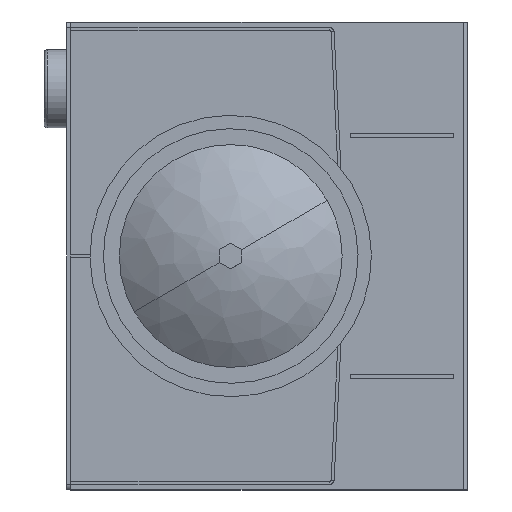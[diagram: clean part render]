
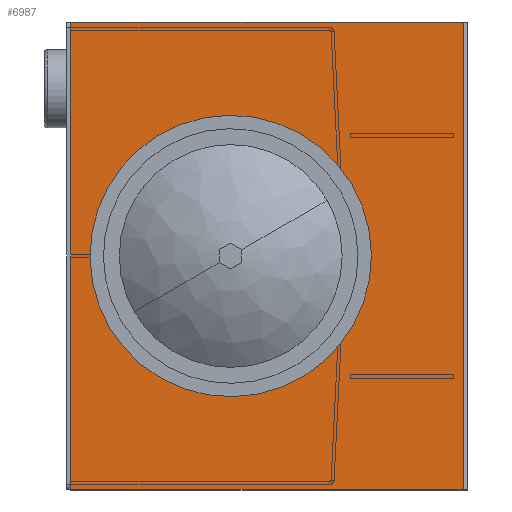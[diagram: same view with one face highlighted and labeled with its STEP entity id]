
A CAD part, left-side view. The second image highlights one B-rep face of the part: STEP entity #6987.
In plain terms, the highlighted planar face has unit normal (-1, 0, 0) as drawn and (1, 0, 0) by its records, which use the part's own axes.
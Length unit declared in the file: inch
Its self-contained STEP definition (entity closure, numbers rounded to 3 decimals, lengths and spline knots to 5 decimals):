
#83 = DIRECTION ( 'NONE',  ( 0., 0., 1. ) ) ;
#114 = CARTESIAN_POINT ( 'NONE',  ( 0., 1.72825, 0. ) ) ;
#289 = DIRECTION ( 'NONE',  ( 1., 0., 0. ) ) ;
#484 = ORIENTED_EDGE ( 'NONE', *, *, #5318, .F. ) ;
#601 = PLANE ( 'NONE',  #3650 ) ;
#690 = EDGE_CURVE ( 'NONE', #8501, #7493, #3948, .T. ) ;
#950 = CARTESIAN_POINT ( 'NONE',  ( 0., 8.90625, 10.5 ) ) ;
#1753 = VECTOR ( 'NONE', #4757, 39.37008 ) ;
#1862 = ORIENTED_EDGE ( 'NONE', *, *, #2209, .T. ) ;
#2138 = ORIENTED_EDGE ( 'NONE', *, *, #5274, .T. ) ;
#2151 = ORIENTED_EDGE ( 'NONE', *, *, #690, .T. ) ;
#2163 = FACE_BOUND ( 'NONE', #2521, .T. ) ;
#2209 = EDGE_CURVE ( 'NONE', #3187, #2708, #6420, .T. ) ;
#2330 = EDGE_LOOP ( 'NONE', ( #3994, #1862, #2138, #2151 ) ) ;
#2521 = EDGE_LOOP ( 'NONE', ( #8576, #484 ) ) ;
#2708 = VERTEX_POINT ( 'NONE', #6695 ) ;
#2924 = LINE ( 'NONE', #8430, #4383 ) ;
#3187 = VERTEX_POINT ( 'NONE', #7063 ) ;
#3274 = CARTESIAN_POINT ( 'NONE',  ( 0., -8.70925, 10.5 ) ) ;
#3411 = CARTESIAN_POINT ( 'NONE',  ( 0., 1.72825, 5. ) ) ;
#3493 = DIRECTION ( 'NONE',  ( 0., 0., -1. ) ) ;
#3578 = AXIS2_PLACEMENT_3D ( 'NONE', #114, #5070, #7284 ) ;
#3650 = AXIS2_PLACEMENT_3D ( 'NONE', #5660, #7115, #7730 ) ;
#3695 = VERTEX_POINT ( 'NONE', #9148 ) ;
#3806 = CARTESIAN_POINT ( 'NONE',  ( 0., -8.90625, 10.5 ) ) ;
#3948 = LINE ( 'NONE', #3806, #8231 ) ;
#3972 = DIRECTION ( 'NONE',  ( 0., 0., -1. ) ) ;
#3994 = ORIENTED_EDGE ( 'NONE', *, *, #7497, .T. ) ;
#4383 = VECTOR ( 'NONE', #3493, 39.37008 ) ;
#4757 = DIRECTION ( 'NONE',  ( 0., 1., 0. ) ) ;
#5070 = DIRECTION ( 'NONE',  ( 1., 0., 0. ) ) ;
#5274 = EDGE_CURVE ( 'NONE', #2708, #8501, #8088, .T. ) ;
#5318 = EDGE_CURVE ( 'NONE', #6696, #3695, #6197, .T. ) ;
#5495 = FACE_OUTER_BOUND ( 'NONE', #2330, .T. ) ;
#5660 = CARTESIAN_POINT ( 'NONE',  ( 0., 0., 0. ) ) ;
#6125 = CIRCLE ( 'NONE', #8264, 5. ) ;
#6197 = CIRCLE ( 'NONE', #3578, 5. ) ;
#6420 = LINE ( 'NONE', #6981, #1753 ) ;
#6695 = CARTESIAN_POINT ( 'NONE',  ( 0., 8.90625, -10.5 ) ) ;
#6696 = VERTEX_POINT ( 'NONE', #3411 ) ;
#6981 = CARTESIAN_POINT ( 'NONE',  ( 0., -8.90625, -10.5 ) ) ;
#6987 = ADVANCED_FACE ( 'NONE', ( #2163, #5495 ), #601, .F. ) ;
#7063 = CARTESIAN_POINT ( 'NONE',  ( 0., -8.70925, -10.5 ) ) ;
#7115 = DIRECTION ( 'NONE',  ( -1., 0., 0. ) ) ;
#7126 = CARTESIAN_POINT ( 'NONE',  ( 0., 8.90625, 10.5 ) ) ;
#7221 = DIRECTION ( 'NONE',  ( 0., -1., 0. ) ) ;
#7284 = DIRECTION ( 'NONE',  ( 0., 0., -1. ) ) ;
#7493 = VERTEX_POINT ( 'NONE', #3274 ) ;
#7497 = EDGE_CURVE ( 'NONE', #7493, #3187, #2924, .T. ) ;
#7730 = DIRECTION ( 'NONE',  ( 0., 0., 1. ) ) ;
#7743 = VECTOR ( 'NONE', #83, 39.37008 ) ;
#7986 = EDGE_CURVE ( 'NONE', #3695, #6696, #6125, .T. ) ;
#8088 = LINE ( 'NONE', #7126, #7743 ) ;
#8192 = CARTESIAN_POINT ( 'NONE',  ( 0., 1.72825, 0. ) ) ;
#8231 = VECTOR ( 'NONE', #7221, 39.37008 ) ;
#8264 = AXIS2_PLACEMENT_3D ( 'NONE', #8192, #289, #3972 ) ;
#8430 = CARTESIAN_POINT ( 'NONE',  ( 0., -8.70925, 10.5 ) ) ;
#8501 = VERTEX_POINT ( 'NONE', #950 ) ;
#8576 = ORIENTED_EDGE ( 'NONE', *, *, #7986, .F. ) ;
#9148 = CARTESIAN_POINT ( 'NONE',  ( 0., 1.72825, -5. ) ) ;
